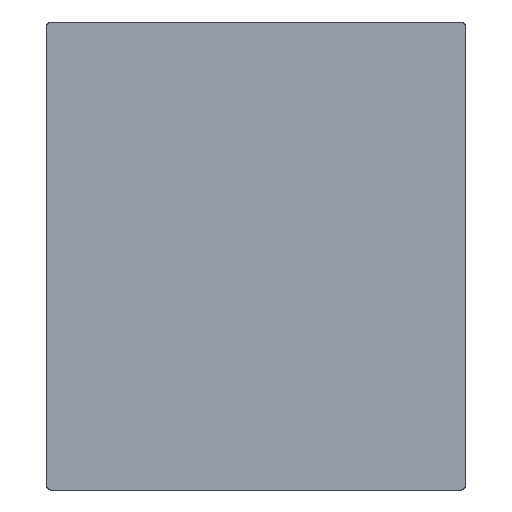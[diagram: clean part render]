
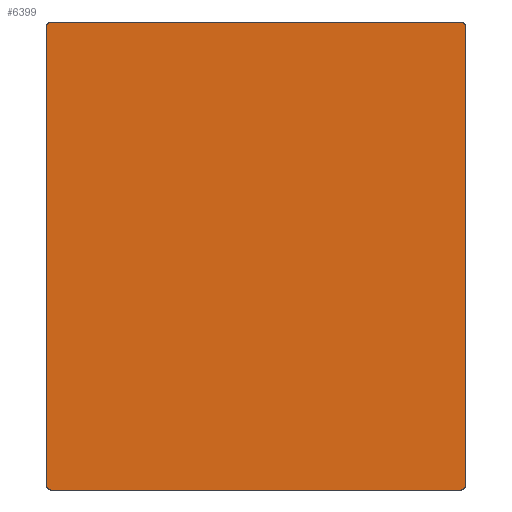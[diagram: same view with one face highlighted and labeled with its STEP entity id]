
A CAD part, front view. The second image highlights one B-rep face of the part: STEP entity #6399.
In plain terms, the highlighted planar face has unit normal (0, -1, 0).
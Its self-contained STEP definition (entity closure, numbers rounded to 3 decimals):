
#412=PLANE('',#7218);
#730=FACE_OUTER_BOUND('',#1374,.T.);
#1374=EDGE_LOOP('',(#5692,#5693,#5694,#5695,#5696,#5697,#5698,#5699));
#1600=LINE('',#10347,#1966);
#1625=LINE('',#10423,#1991);
#1770=LINE('',#11077,#2136);
#1773=LINE('',#11082,#2139);
#1966=VECTOR('',#8440,10.);
#1991=VECTOR('',#8515,10.);
#2136=VECTOR('',#9132,10.);
#2139=VECTOR('',#9137,10.);
#2508=CIRCLE('',#7031,1.);
#2575=CIRCLE('',#7130,1.);
#2607=CIRCLE('',#7219,1.);
#2608=CIRCLE('',#7220,1.);
#2958=VERTEX_POINT('',#10257);
#3002=VERTEX_POINT('',#10345);
#3027=VERTEX_POINT('',#10421);
#3028=VERTEX_POINT('',#10422);
#3103=VERTEX_POINT('',#10624);
#3148=VERTEX_POINT('',#10898);
#3193=VERTEX_POINT('',#11076);
#3194=VERTEX_POINT('',#11080);
#3710=EDGE_CURVE('',#2958,#3002,#1600,.T.);
#3747=EDGE_CURVE('',#3027,#3028,#1625,.T.);
#3848=EDGE_CURVE('',#2958,#3103,#2508,.T.);
#3937=EDGE_CURVE('',#3148,#3002,#2575,.T.);
#4026=EDGE_CURVE('',#3103,#3193,#1770,.T.);
#4029=EDGE_CURVE('',#3148,#3194,#1773,.T.);
#4045=EDGE_CURVE('',#3194,#3028,#2607,.T.);
#4046=EDGE_CURVE('',#3193,#3027,#2608,.T.);
#5692=ORIENTED_EDGE('',*,*,#3937,.F.);
#5693=ORIENTED_EDGE('',*,*,#4029,.T.);
#5694=ORIENTED_EDGE('',*,*,#4045,.T.);
#5695=ORIENTED_EDGE('',*,*,#3747,.F.);
#5696=ORIENTED_EDGE('',*,*,#4046,.F.);
#5697=ORIENTED_EDGE('',*,*,#4026,.F.);
#5698=ORIENTED_EDGE('',*,*,#3848,.F.);
#5699=ORIENTED_EDGE('',*,*,#3710,.T.);
#6399=ADVANCED_FACE('',(#730),#412,.T.);
#7031=AXIS2_PLACEMENT_3D('',#10625,#8712,#8713);
#7130=AXIS2_PLACEMENT_3D('',#10899,#8932,#8933);
#7218=AXIS2_PLACEMENT_3D('',#11121,#9184,#9185);
#7219=AXIS2_PLACEMENT_3D('',#11122,#9186,#9187);
#7220=AXIS2_PLACEMENT_3D('',#11123,#9188,#9189);
#8440=DIRECTION('',(0.,0.,-1.));
#8515=DIRECTION('',(0.,0.,-1.));
#8712=DIRECTION('center_axis',(0.,1.,0.));
#8713=DIRECTION('ref_axis',(-0.707,0.,0.707));
#8932=DIRECTION('center_axis',(0.,1.,0.));
#8933=DIRECTION('ref_axis',(-0.707,0.,-0.707));
#9132=DIRECTION('',(1.,0.,0.));
#9137=DIRECTION('',(1.,0.,0.));
#9184=DIRECTION('center_axis',(0.,-1.,0.));
#9185=DIRECTION('ref_axis',(0.,0.,-1.));
#9186=DIRECTION('center_axis',(0.,-1.,0.));
#9187=DIRECTION('ref_axis',(0.707,0.,-0.707));
#9188=DIRECTION('center_axis',(0.,1.,0.));
#9189=DIRECTION('ref_axis',(0.707,0.,0.707));
#10257=CARTESIAN_POINT('',(-24.,0.,-1.));
#10345=CARTESIAN_POINT('',(-24.,0.,-104.));
#10347=CARTESIAN_POINT('',(-24.,0.,40.));
#10421=CARTESIAN_POINT('',(70.,0.,-1.));
#10422=CARTESIAN_POINT('',(70.,0.,-104.));
#10423=CARTESIAN_POINT('',(70.,0.,40.));
#10624=CARTESIAN_POINT('',(-23.,0.,0.));
#10625=CARTESIAN_POINT('Origin',(-23.,0.,-1.));
#10898=CARTESIAN_POINT('',(-23.,0.,-105.));
#10899=CARTESIAN_POINT('Origin',(-23.,0.,-104.));
#11076=CARTESIAN_POINT('',(69.,0.,0.));
#11077=CARTESIAN_POINT('',(0.,0.,0.));
#11080=CARTESIAN_POINT('',(69.,0.,-105.));
#11082=CARTESIAN_POINT('',(0.,0.,-105.));
#11121=CARTESIAN_POINT('Origin',(0.,0.,40.));
#11122=CARTESIAN_POINT('Origin',(69.,0.,-104.));
#11123=CARTESIAN_POINT('Origin',(69.,0.,-1.));
